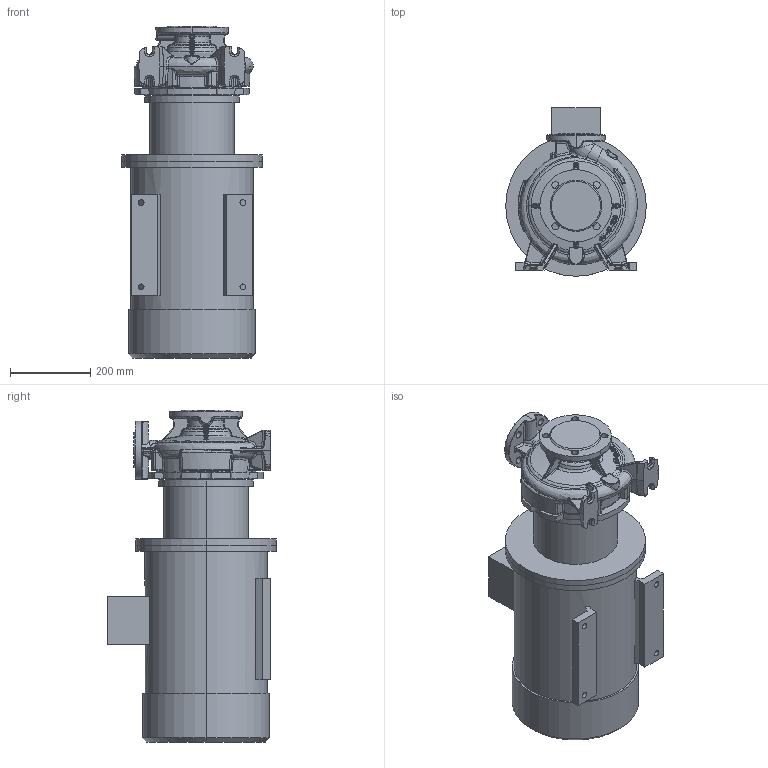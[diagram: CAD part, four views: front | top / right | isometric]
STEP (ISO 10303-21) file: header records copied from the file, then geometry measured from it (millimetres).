
FILE_DESCRIPTION (( 'STEP AP214' ), '1' );
FILE_NAME ('KRM 65-40-200-2-11.STEP', '2026-04-24T08:27:08', ( '' ), ( '' ), 'SwSTEP 2.0', 'SolidWorks 2016', '' );
FILE_SCHEMA (( 'AUTOMOTIVE_DESIGN' ));
Length unit declared in the file: millimetre
Products named in the file (1): KRM 65-40-200-2-11
Bounding box: 350 x 420 x 827.3 mm (x, y, z)
Volume: 53572878.6 mm3; surface area: 1692947.5 mm2
Topology: 4 solids, 4 shells, 1142 faces, 2779 edges, 1656 vertices
Faces by surface type: bspline 511, cylinder 218, plane 213, cone 90, torus 82, sphere 28
Entity records: 84424 total; most frequent: CARTESIAN_POINT 49200, ORIENTED_EDGE 5516, DIRECTION 3668, EDGE_CURVE 2758, VERTEX_POINT 1656, AXIS2_PLACEMENT_3D 1537, EDGE_LOOP 1198, UNCERTAINTY_MEASURE_WITH_UNIT 1148
